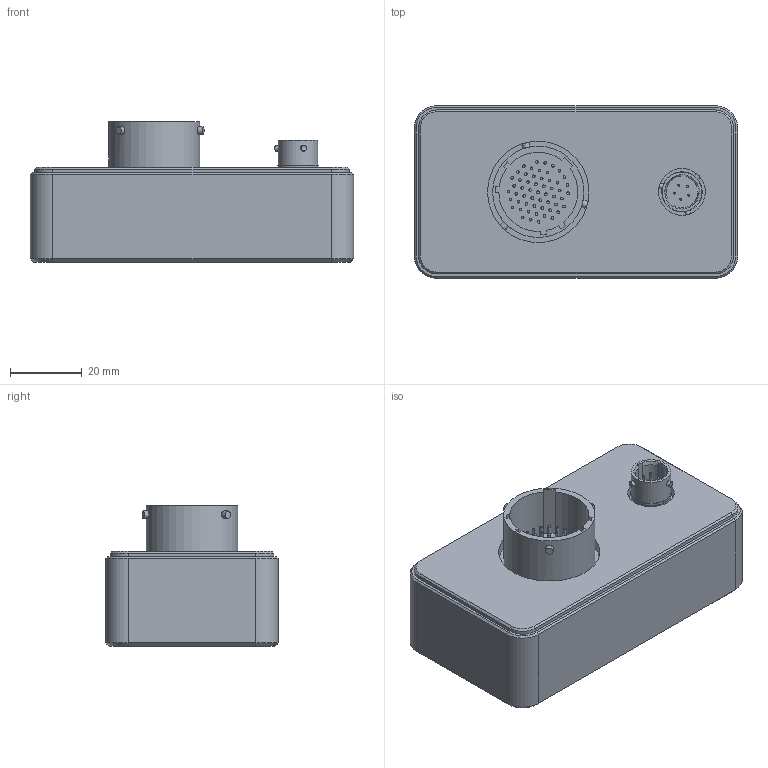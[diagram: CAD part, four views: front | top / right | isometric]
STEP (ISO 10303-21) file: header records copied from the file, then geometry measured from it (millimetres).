
FILE_DESCRIPTION(/* description */ ('Alibre Inc.'),/* implementation_level */ '2;1');
FILE_NAME(/* name */ 'export0',/* time_stamp */ '2017-05-29T11:21:40+10:00',/* author */ (''),/* organization */ (''),/* preprocessor_version */ 'ST-DEVELOPER v14',/* originating_system */ 'Alibre',/* authorisation */ '');
FILE_SCHEMA (('CONFIG_CONTROL_DESIGN'));
Length unit declared in the file: centimetre
Products named in the file (4): ID_1; ID_2; ID_3; ID_4
Bounding box: 90 x 48 x 39.2 mm (x, y, z)
Volume: 115065 mm3; surface area: 22225.1 mm2
Topology: 3 solids, 3 shells, 248 faces, 469 edges, 307 vertices
Faces by surface type: plane 124, cylinder 107, cone 15, extrusion 1, torus 1
Full cylindrical faces by diameter (mm): 0.55 x5, 0.75 x55, 1.5 x3, 2.08 x3, 2.7 x2, 3.242 x4, 3.25 x2, 11 x2, 11.2 x2, 13 x1, 25.4 x1, 28.2 x1
Entity records: 6309 total; most frequent: CARTESIAN_POINT 1230, DIRECTION 940, ORIENTED_EDGE 760, AXIS2_PLACEMENT_3D 459, EDGE_LOOP 419, FACE_BOUND 419, EDGE_CURVE 380, VERTEX_POINT 301
